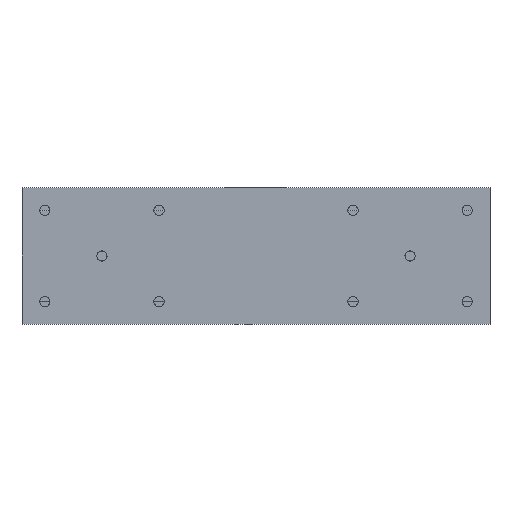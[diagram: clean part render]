
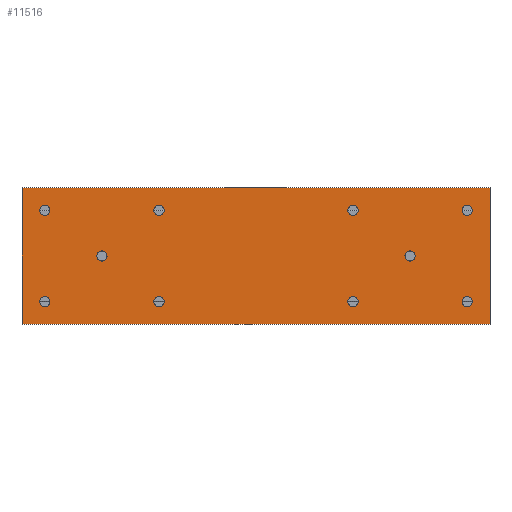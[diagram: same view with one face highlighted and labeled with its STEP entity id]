
A CAD part, front view. The second image highlights one B-rep face of the part: STEP entity #11516.
In plain terms, the highlighted planar face has unit normal (0, -1, 0).
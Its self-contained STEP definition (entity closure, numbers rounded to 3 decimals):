
#444=CIRCLE('',#12194,2.25);
#445=CIRCLE('',#12195,2.25);
#446=CIRCLE('',#12196,2.25);
#447=CIRCLE('',#12197,2.25);
#448=CIRCLE('',#12198,2.25);
#449=CIRCLE('',#12199,2.25);
#450=CIRCLE('',#12200,2.25);
#451=CIRCLE('',#12201,2.25);
#452=CIRCLE('',#12202,2.25);
#453=CIRCLE('',#12203,2.25);
#1222=ORIENTED_EDGE('',*,*,#4751,.F.);
#1223=ORIENTED_EDGE('',*,*,#4752,.F.);
#1224=ORIENTED_EDGE('',*,*,#4753,.F.);
#1225=ORIENTED_EDGE('',*,*,#4754,.F.);
#1226=ORIENTED_EDGE('',*,*,#4755,.F.);
#1227=ORIENTED_EDGE('',*,*,#4756,.F.);
#1228=ORIENTED_EDGE('',*,*,#4757,.T.);
#1229=ORIENTED_EDGE('',*,*,#4758,.F.);
#1230=ORIENTED_EDGE('',*,*,#4759,.F.);
#1231=ORIENTED_EDGE('',*,*,#4760,.F.);
#1232=ORIENTED_EDGE('',*,*,#4702,.T.);
#1233=ORIENTED_EDGE('',*,*,#4761,.F.);
#1234=ORIENTED_EDGE('',*,*,#4762,.F.);
#1235=ORIENTED_EDGE('',*,*,#4749,.T.);
#4702=EDGE_CURVE('',#6473,#6472,#7672,.T.);
#4749=EDGE_CURVE('',#6510,#6473,#7715,.T.);
#4751=EDGE_CURVE('',#6511,#6511,#444,.T.);
#4752=EDGE_CURVE('',#6512,#6512,#445,.T.);
#4753=EDGE_CURVE('',#6513,#6513,#446,.T.);
#4754=EDGE_CURVE('',#6514,#6514,#447,.T.);
#4755=EDGE_CURVE('',#6515,#6515,#448,.T.);
#4756=EDGE_CURVE('',#6516,#6516,#449,.T.);
#4757=EDGE_CURVE('',#6517,#6517,#450,.T.);
#4758=EDGE_CURVE('',#6518,#6518,#451,.T.);
#4759=EDGE_CURVE('',#6519,#6519,#452,.T.);
#4760=EDGE_CURVE('',#6520,#6520,#453,.T.);
#4761=EDGE_CURVE('',#6521,#6472,#7717,.T.);
#4762=EDGE_CURVE('',#6510,#6521,#7718,.T.);
#6472=VERTEX_POINT('',#17374);
#6473=VERTEX_POINT('',#17376);
#6510=VERTEX_POINT('',#17467);
#6511=VERTEX_POINT('',#17471);
#6512=VERTEX_POINT('',#17473);
#6513=VERTEX_POINT('',#17475);
#6514=VERTEX_POINT('',#17477);
#6515=VERTEX_POINT('',#17479);
#6516=VERTEX_POINT('',#17481);
#6517=VERTEX_POINT('',#17483);
#6518=VERTEX_POINT('',#17485);
#6519=VERTEX_POINT('',#17487);
#6520=VERTEX_POINT('',#17489);
#6521=VERTEX_POINT('',#17491);
#7672=LINE('',#17375,#8692);
#7715=LINE('',#17466,#8735);
#7717=LINE('',#17490,#8737);
#7718=LINE('',#17492,#8738);
#8692=VECTOR('',#13587,1000.);
#8735=VECTOR('',#13652,1000.);
#8737=VECTOR('',#13676,1000.);
#8738=VECTOR('',#13677,1000.);
#9699=EDGE_LOOP('',(#1222));
#9700=EDGE_LOOP('',(#1223));
#9701=EDGE_LOOP('',(#1224));
#9702=EDGE_LOOP('',(#1225));
#9703=EDGE_LOOP('',(#1226));
#9704=EDGE_LOOP('',(#1227));
#9705=EDGE_LOOP('',(#1228));
#9706=EDGE_LOOP('',(#1229));
#9707=EDGE_LOOP('',(#1230));
#9708=EDGE_LOOP('',(#1231));
#9709=EDGE_LOOP('',(#1232,#1233,#1234,#1235));
#10463=FACE_BOUND('',#9699,.T.);
#10464=FACE_BOUND('',#9700,.T.);
#10465=FACE_BOUND('',#9701,.T.);
#10466=FACE_BOUND('',#9702,.T.);
#10467=FACE_BOUND('',#9703,.T.);
#10468=FACE_BOUND('',#9704,.T.);
#10469=FACE_BOUND('',#9705,.T.);
#10470=FACE_BOUND('',#9706,.T.);
#10471=FACE_BOUND('',#9707,.T.);
#10472=FACE_BOUND('',#9708,.T.);
#10473=FACE_BOUND('',#9709,.T.);
#11223=PLANE('',#12193);
#11516=ADVANCED_FACE('',(#10463,#10464,#10465,#10466,#10467,#10468,#10469,
#10470,#10471,#10472,#10473),#11223,.F.);
#12193=AXIS2_PLACEMENT_3D('',#17469,#13654,#13655);
#12194=AXIS2_PLACEMENT_3D('',#17470,#13656,#13657);
#12195=AXIS2_PLACEMENT_3D('',#17472,#13658,#13659);
#12196=AXIS2_PLACEMENT_3D('',#17474,#13660,#13661);
#12197=AXIS2_PLACEMENT_3D('',#17476,#13662,#13663);
#12198=AXIS2_PLACEMENT_3D('',#17478,#13664,#13665);
#12199=AXIS2_PLACEMENT_3D('',#17480,#13666,#13667);
#12200=AXIS2_PLACEMENT_3D('',#17482,#13668,#13669);
#12201=AXIS2_PLACEMENT_3D('',#17484,#13670,#13671);
#12202=AXIS2_PLACEMENT_3D('',#17486,#13672,#13673);
#12203=AXIS2_PLACEMENT_3D('',#17488,#13674,#13675);
#13587=DIRECTION('',(0.,0.,-1.));
#13652=DIRECTION('',(-1.,0.,0.));
#13654=DIRECTION('',(0.,1.,0.));
#13655=DIRECTION('',(0.,0.,1.));
#13656=DIRECTION('',(0.,-1.,0.));
#13657=DIRECTION('',(0.,0.,-1.));
#13658=DIRECTION('',(0.,-1.,0.));
#13659=DIRECTION('',(0.,0.,-1.));
#13660=DIRECTION('',(0.,-1.,0.));
#13661=DIRECTION('',(0.,0.,-1.));
#13662=DIRECTION('',(0.,-1.,0.));
#13663=DIRECTION('',(0.,0.,-1.));
#13664=DIRECTION('',(0.,-1.,0.));
#13665=DIRECTION('',(0.,0.,-1.));
#13666=DIRECTION('',(0.,-1.,0.));
#13667=DIRECTION('',(0.,0.,-1.));
#13668=DIRECTION('',(0.,1.,0.));
#13669=DIRECTION('',(0.,0.,1.));
#13670=DIRECTION('',(0.,-1.,0.));
#13671=DIRECTION('',(0.,0.,-1.));
#13672=DIRECTION('',(0.,-1.,0.));
#13673=DIRECTION('',(0.,0.,-1.));
#13674=DIRECTION('',(0.,-1.,0.));
#13675=DIRECTION('',(0.,0.,-1.));
#13676=DIRECTION('',(-1.,0.,0.));
#13677=DIRECTION('',(0.,0.,-1.));
#17374=CARTESIAN_POINT('',(0.,0.,-30.));
#17375=CARTESIAN_POINT('',(0.,0.,30.));
#17376=CARTESIAN_POINT('',(0.,0.,30.));
#17466=CARTESIAN_POINT('',(205.,0.,30.));
#17467=CARTESIAN_POINT('',(205.,0.,30.));
#17469=CARTESIAN_POINT('',(205.,0.,30.));
#17470=CARTESIAN_POINT('',(145.,0.,-20.));
#17471=CARTESIAN_POINT('',(145.,0.,-22.25));
#17472=CARTESIAN_POINT('',(145.,0.,20.));
#17473=CARTESIAN_POINT('',(145.,0.,17.75));
#17474=CARTESIAN_POINT('',(60.,0.,-20.));
#17475=CARTESIAN_POINT('',(60.,0.,-22.25));
#17476=CARTESIAN_POINT('',(60.,0.,20.));
#17477=CARTESIAN_POINT('',(60.,0.,17.75));
#17478=CARTESIAN_POINT('',(170.,0.,0.));
#17479=CARTESIAN_POINT('',(170.,0.,-2.25));
#17480=CARTESIAN_POINT('',(35.,0.,0.));
#17481=CARTESIAN_POINT('',(35.,0.,-2.25));
#17482=CARTESIAN_POINT('',(195.,0.,20.));
#17483=CARTESIAN_POINT('',(195.,0.,22.25));
#17484=CARTESIAN_POINT('',(195.,0.,-20.));
#17485=CARTESIAN_POINT('',(195.,0.,-22.25));
#17486=CARTESIAN_POINT('',(10.,0.,-20.));
#17487=CARTESIAN_POINT('',(10.,0.,-22.25));
#17488=CARTESIAN_POINT('',(10.,0.,20.));
#17489=CARTESIAN_POINT('',(10.,0.,17.75));
#17490=CARTESIAN_POINT('',(205.,0.,-30.));
#17491=CARTESIAN_POINT('',(205.,0.,-30.));
#17492=CARTESIAN_POINT('',(205.,0.,30.));
